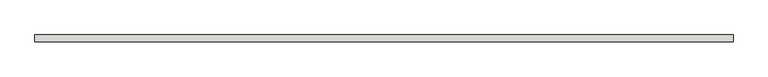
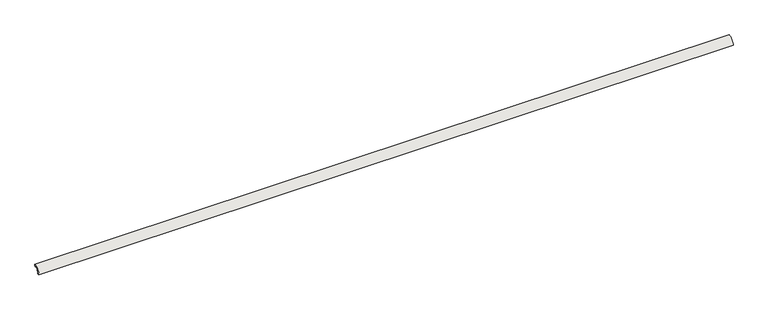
"""IFC4 building model written with IfcOpenShell, lengths in millimetres: slab geometry, ROSA GRES_183 : Pieza 183_Tao_Beige_Liso."""

from ifc_helpers import new_model, si_unit, point, frame, frame_2d, origin, origin_2d, place, context, project, spatial, polyline, circle_curve, trimmed, segment, composite_curve, outline, extrude, source, transform, mapped, element, save


def slab_eb9e3eb8(model_context):
    return source(origin(), model_context, "Body", "SweptSolid", [
        extrude(outline(composite_curve([segment(polyline([(0.0, 40.0), (0.0, 30.0265886)]), True, "CONTINUOUS"), segment(trimmed(circle_curve(frame_2d((-0.0044453, 0.0044453)), 30.0221435), [point((0.0, 30.0265886))], [point((-30.0265886, 0.0))], True, "CARTESIAN"), True, "CONTINUOUS"), segment(polyline([(-30.0265886, 0.0), (-40.0, 0.0)]), True, "CONTINUOUS"), segment(trimmed(circle_curve(origin_2d(), 40.0), [point((-40.0, 0.0))], [point((0.0, 40.0))], False, "CARTESIAN"), True, "CONTINUOUS")], self_intersect=False)), frame((0.0, 0.0, 0.0), z_axis=(1.0, 0.0, 0.0), x_axis=(0.0, 1.0, 0.0)), (0.0, 0.0, 1.0), 4008.0),
    ])


if __name__ == "__main__":
    model = new_model("IFC4")
    model_context = context("Model", 3, world=origin())
    ifc_project = project(units=[si_unit("LENGTHUNIT", "METRE", prefix="MILLI")], contexts=[model_context])
    site = spatial("IfcSite", under=ifc_project)
    building = spatial("IfcBuilding", under=site)
    placement = place(None, origin())
    slab_shape = slab_eb9e3eb8(model_context)
    element("IfcSlab", 1, ObjectType="ROSA GRES_183 : Pieza 183_Tao_Beige_Liso", at=placement, inside=building, context=model_context, shape_type="MappedRepresentation", body=[
        mapped(slab_shape, transform((0.0, 0.0, 0.0), x_axis=(1.0, 0.0, 0.0), y_axis=(0.0, 1.0, 0.0), z_axis=(0.0, 0.0, 1.0))),
    ])
    save(model, "model.ifc")
